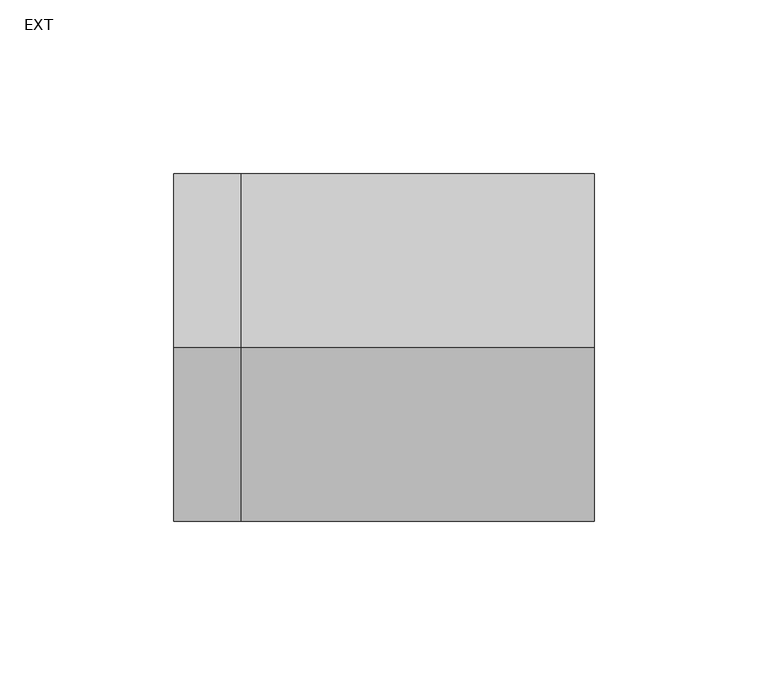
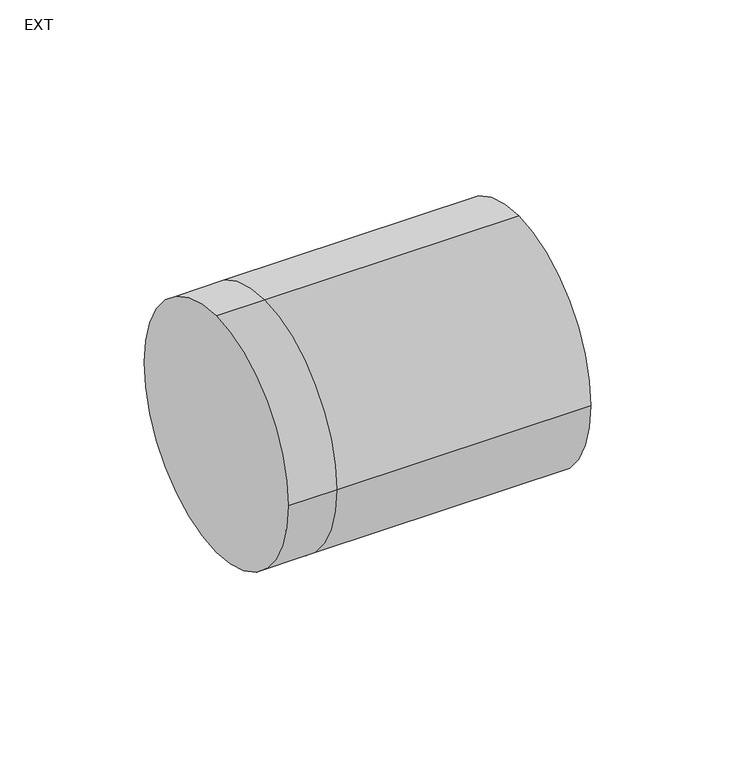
"""IFC4 building model written with IfcOpenShell, lengths in millimetres: duct fitting geometry, M_Toma de derivación redonda : EXT."""

from ifc_helpers import new_model, si_unit, frame, origin, place, context, project, spatial, circle_curve, source, transform, mapped, element, save
from ifc_brep_helpers import plane_surface, cylinder_surface, advanced_brep


def ext_2c048923(model_context):
    return source(origin(), model_context, "Body", "AdvancedBrep", [
        advanced_brep(
        [(101.6, 0.0, 50.0), (101.6, -50.0, 0.0), (101.6, 0.0, -50.0), (101.6, 50.0, 0.0), (0.0, 50.0, 0.0), (0.0, 0.0, 50.0), (0.0, 0.0, -50.0), (0.0, -50.0, 0.0), (-19.4945399, 0.0, 50.0), (-19.4945399, 50.0, 0.0), (-19.4945399, 0.0, -50.0), (-19.4945399, -50.0, 0.0)],
        [
            (0, 1, circle_curve(frame((101.6, 0.0, 0.0), z_axis=(1.0, 0.0, 0.0), x_axis=(0.0, 1.0, 0.0)), 50.0)),
            (1, 2, circle_curve(frame((101.6, 0.0, 0.0), z_axis=(1.0, 0.0, 0.0), x_axis=(0.0, 1.0, 0.0)), 50.0)),
            (2, 3, circle_curve(frame((101.6, 0.0, 0.0), z_axis=(1.0, 0.0, 0.0), x_axis=(0.0, 1.0, 0.0)), 50.0)),
            (3, 0, circle_curve(frame((101.6, 0.0, 0.0), z_axis=(1.0, 0.0, 0.0), x_axis=(0.0, 1.0, 0.0)), 50.0)),
            (3, 4),
            (4, 5, circle_curve(frame((0.0, 0.0, 0.0), z_axis=(1.0, 0.0, 0.0), x_axis=(0.0, 1.0, 0.0)), 50.0)),
            (5, 0),
            (2, 6),
            (6, 4, circle_curve(frame((0.0, 0.0, 0.0), z_axis=(1.0, 0.0, 0.0), x_axis=(0.0, 1.0, 0.0)), 50.0)),
            (1, 7),
            (7, 6, circle_curve(frame((0.0, 0.0, 0.0), z_axis=(1.0, 0.0, 0.0), x_axis=(0.0, 1.0, 0.0)), 50.0)),
            (5, 7, circle_curve(frame((0.0, 0.0, 0.0), z_axis=(1.0, 0.0, 0.0), x_axis=(0.0, 1.0, 0.0)), 50.0)),
            (8, 9, circle_curve(frame((-19.4945399, 0.0, 0.0), z_axis=(-1.0, 0.0, 0.0), x_axis=(0.0, 1.0, 0.0)), 50.0)),
            (9, 10, circle_curve(frame((-19.4945399, 0.0, 0.0), z_axis=(-1.0, 0.0, 0.0), x_axis=(0.0, 1.0, 0.0)), 50.0)),
            (10, 11, circle_curve(frame((-19.4945399, 0.0, 0.0), z_axis=(-1.0, 0.0, 0.0), x_axis=(0.0, 1.0, 0.0)), 50.0)),
            (11, 8, circle_curve(frame((-19.4945399, 0.0, 0.0), z_axis=(-1.0, 0.0, 0.0), x_axis=(0.0, 1.0, 0.0)), 50.0)),
            (8, 5),
            (4, 9),
            (6, 10),
            (7, 11),
        ],
        [
            plane_surface(frame((101.6, 0.0, 0.0), z_axis=(1.0, 0.0, 0.0), x_axis=(0.0, 0.0, 1.0))),
            cylinder_surface(frame((0.0, 0.0, 0.0), z_axis=(-1.0, 0.0, 0.0), x_axis=(0.0, 1.0, 0.0)), 50.0),
            plane_surface(frame((-19.4945399, 0.0, 0.0), z_axis=(-1.0, 0.0, 0.0), x_axis=(0.0, 0.0, 1.0))),
            cylinder_surface(frame((-19.4945399, 0.0, 0.0), z_axis=(-1.0, 0.0, 0.0), x_axis=(0.0, 1.0, 0.0)), 50.0),
        ],
        [
            (0, [[1, 2, 3, 4]]),
            (1, [[-4, 5, 6, 7]]),
            (1, [[-3, 8, 9, -5]]),
            (1, [[-2, 10, 11, -8]]),
            (1, [[-1, -7, 12, -10]]),
            (2, [[13, 14, 15, 16]]),
            (3, [[-13, 17, -6, 18]]),
            (3, [[-14, -18, -9, 19]]),
            (3, [[-15, -19, -11, 20]]),
            (3, [[-16, -20, -12, -17]]),
        ],
    ),
    ])


if __name__ == "__main__":
    model = new_model("IFC4")
    model_context = context("Model", 3, world=origin())
    ifc_project = project(units=[si_unit("LENGTHUNIT", "METRE", prefix="MILLI")], contexts=[model_context])
    site = spatial("IfcSite", under=ifc_project)
    building = spatial("IfcBuilding", under=site)
    placement = place(None, origin())
    ext_shape = ext_2c048923(model_context)
    element("IfcDuctFitting", 1, ObjectType="M_Toma de derivación redonda : EXT", at=placement, inside=building, context=model_context, shape_type="MappedRepresentation", body=[
        mapped(ext_shape, transform((0.0, 0.0, 0.0), x_axis=(1.0, 0.0, 0.0), y_axis=(0.0, 1.0, 0.0), z_axis=(0.0, 0.0, 1.0))),
    ])
    save(model, "model.ifc")
